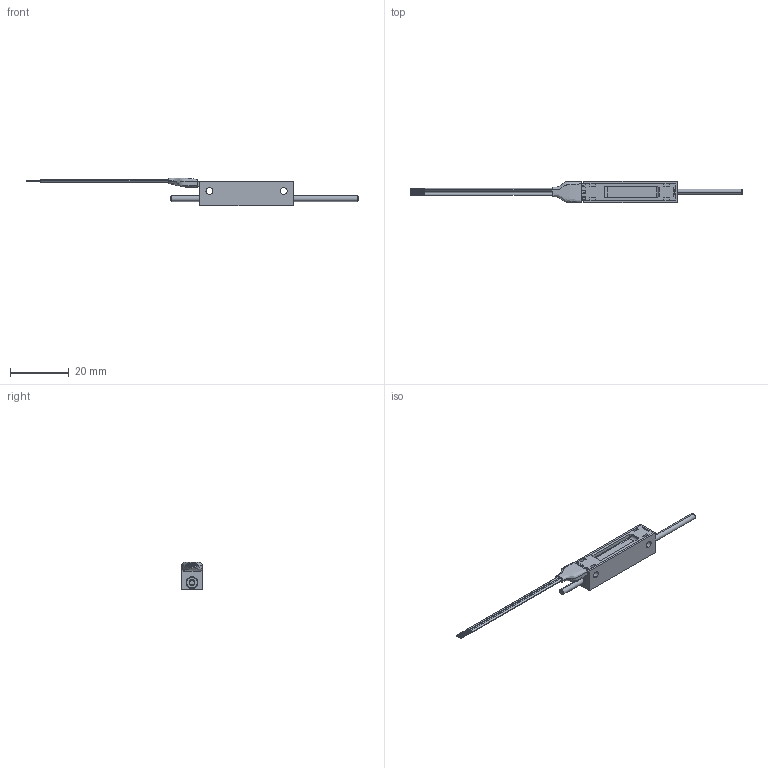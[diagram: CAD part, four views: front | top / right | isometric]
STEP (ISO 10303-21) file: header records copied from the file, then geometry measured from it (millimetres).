
FILE_DESCRIPTION (( 'STEP AP203' ), '1' );
FILE_NAME ('MLR10.STEP', '2022-03-02T12:24:00', ( '' ), ( '' ), 'SwSTEP 2.0', 'SolidWorks 2019', '' );
FILE_SCHEMA (( 'CONFIG_CONTROL_DESIGN' ));
Length unit declared in the file: millimetre
Products named in the file (3): MLR10_2; MLR10; MLR10_1
Assembly tree (2 placements, depth 2):
  MLR10
    MLR10_1
    MLR10_2
Bounding box: 113.5 x 7.3 x 9.42 mm (x, y, z)
Volume: 1478.4 mm3; surface area: 3022.5 mm2
Topology: 2 solids, 8 shells, 621 faces, 1628 edges, 1064 vertices
Faces by surface type: plane 371, cylinder 131, bspline 107, cone 12
Entity records: 22794 total; most frequent: CARTESIAN_POINT 7652, ORIENTED_EDGE 3240, DIRECTION 2757, EDGE_CURVE 1620, VECTOR 1129, LINE 1129, VERTEX_POINT 1064, AXIS2_PLACEMENT_3D 814
